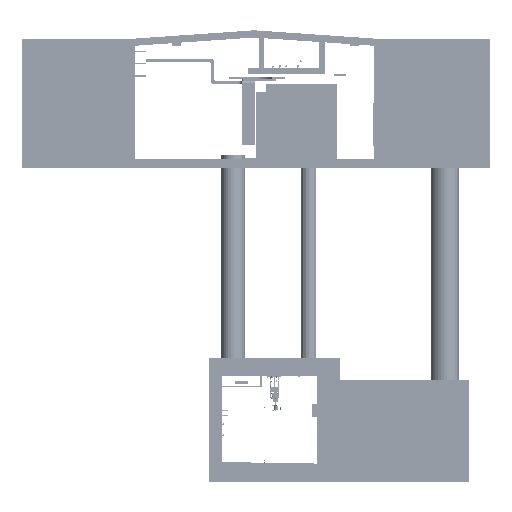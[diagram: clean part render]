
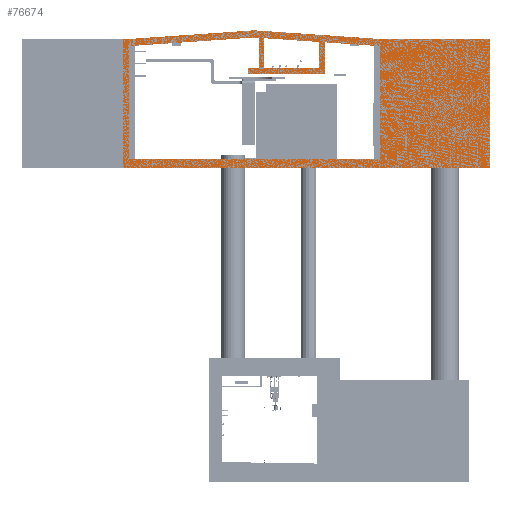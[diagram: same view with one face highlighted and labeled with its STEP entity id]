
A CAD part, left-side view. The second image highlights one B-rep face of the part: STEP entity #76674.
In plain terms, the highlighted planar face has unit normal (-1, 0, 0).
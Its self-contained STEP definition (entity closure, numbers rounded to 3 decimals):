
#14238=ORIENTED_EDGE('',*,*,#30600,.F.);
#14239=ORIENTED_EDGE('',*,*,#32429,.T.);
#14240=ORIENTED_EDGE('',*,*,#30593,.T.);
#14241=ORIENTED_EDGE('',*,*,#32430,.T.);
#14242=ORIENTED_EDGE('',*,*,#32036,.F.);
#14243=ORIENTED_EDGE('',*,*,#32431,.F.);
#14244=ORIENTED_EDGE('',*,*,#30604,.F.);
#14245=ORIENTED_EDGE('',*,*,#32432,.T.);
#14246=ORIENTED_EDGE('',*,*,#30596,.T.);
#14247=ORIENTED_EDGE('',*,*,#30584,.T.);
#14248=ORIENTED_EDGE('',*,*,#30587,.T.);
#14249=ORIENTED_EDGE('',*,*,#32433,.T.);
#14250=ORIENTED_EDGE('',*,*,#32434,.F.);
#14251=ORIENTED_EDGE('',*,*,#32268,.T.);
#14252=ORIENTED_EDGE('',*,*,#31801,.T.);
#14253=ORIENTED_EDGE('',*,*,#32435,.T.);
#14254=ORIENTED_EDGE('',*,*,#30623,.T.);
#14255=ORIENTED_EDGE('',*,*,#32436,.F.);
#14256=ORIENTED_EDGE('',*,*,#32437,.F.);
#14257=ORIENTED_EDGE('',*,*,#30644,.F.);
#14258=ORIENTED_EDGE('',*,*,#32385,.F.);
#14259=ORIENTED_EDGE('',*,*,#32399,.F.);
#30584=EDGE_CURVE('',#40345,#40347,#47569,.T.);
#30587=EDGE_CURVE('',#40347,#40349,#47572,.T.);
#30593=EDGE_CURVE('',#40355,#40354,#47578,.T.);
#30596=EDGE_CURVE('',#40357,#40345,#47581,.T.);
#30600=EDGE_CURVE('',#40360,#40361,#47585,.T.);
#30604=EDGE_CURVE('',#40364,#40365,#47589,.T.);
#30623=EDGE_CURVE('',#40384,#40383,#47608,.T.);
#30644=EDGE_CURVE('',#40404,#40405,#47629,.T.);
#31801=EDGE_CURVE('',#41363,#41362,#48686,.T.);
#32036=EDGE_CURVE('',#41469,#41362,#48826,.T.);
#32268=EDGE_CURVE('',#41539,#41363,#48990,.T.);
#32385=EDGE_CURVE('',#41584,#40404,#49080,.T.);
#32399=EDGE_CURVE('',#41588,#41584,#49094,.T.);
#32429=EDGE_CURVE('',#40360,#40355,#49106,.T.);
#32430=EDGE_CURVE('',#40354,#40361,#49107,.T.);
#32431=EDGE_CURVE('',#40365,#41469,#49108,.T.);
#32432=EDGE_CURVE('',#40364,#40357,#49109,.T.);
#32433=EDGE_CURVE('',#40349,#41613,#49110,.T.);
#32434=EDGE_CURVE('',#41539,#41613,#49111,.T.);
#32435=EDGE_CURVE('',#41588,#40384,#49112,.T.);
#32436=EDGE_CURVE('',#41614,#40383,#49113,.T.);
#32437=EDGE_CURVE('',#40405,#41614,#49114,.T.);
#40345=VERTEX_POINT('',#123198);
#40347=VERTEX_POINT('',#123202);
#40349=VERTEX_POINT('',#123208);
#40354=VERTEX_POINT('',#123221);
#40355=VERTEX_POINT('',#123223);
#40357=VERTEX_POINT('',#123229);
#40360=VERTEX_POINT('',#123236);
#40361=VERTEX_POINT('',#123238);
#40364=VERTEX_POINT('',#123245);
#40365=VERTEX_POINT('',#123247);
#40383=VERTEX_POINT('',#123284);
#40384=VERTEX_POINT('',#123286);
#40404=VERTEX_POINT('',#123327);
#40405=VERTEX_POINT('',#123329);
#41362=VERTEX_POINT('',#125648);
#41363=VERTEX_POINT('',#125650);
#41469=VERTEX_POINT('',#126053);
#41539=VERTEX_POINT('',#126455);
#41584=VERTEX_POINT('',#126675);
#41588=VERTEX_POINT('',#126700);
#41613=VERTEX_POINT('',#126775);
#41614=VERTEX_POINT('',#126779);
#47569=LINE('',#123203,#53812);
#47572=LINE('',#123209,#53815);
#47578=LINE('',#123222,#53821);
#47581=LINE('',#123228,#53824);
#47585=LINE('',#123237,#53828);
#47589=LINE('',#123246,#53832);
#47608=LINE('',#123285,#53851);
#47629=LINE('',#123328,#53872);
#48686=LINE('',#125649,#54929);
#48826=LINE('',#126054,#55069);
#48990=LINE('',#126459,#55233);
#49080=LINE('',#126676,#55323);
#49094=LINE('',#126701,#55337);
#49106=LINE('',#126770,#55349);
#49107=LINE('',#126771,#55350);
#49108=LINE('',#126772,#55351);
#49109=LINE('',#126773,#55352);
#49110=LINE('',#126774,#55353);
#49111=LINE('',#126776,#55354);
#49112=LINE('',#126777,#55355);
#49113=LINE('',#126778,#55356);
#49114=LINE('',#126780,#55357);
#53812=VECTOR('',#99216,1000.);
#53815=VECTOR('',#99221,1000.);
#53821=VECTOR('',#99231,1000.);
#53824=VECTOR('',#99236,1000.);
#53828=VECTOR('',#99242,1000.);
#53832=VECTOR('',#99248,1000.);
#53851=VECTOR('',#99269,1000.);
#53872=VECTOR('',#99292,1000.);
#54929=VECTOR('',#100961,1000.);
#55069=VECTOR('',#101417,1000.);
#55233=VECTOR('',#101921,1000.);
#55323=VECTOR('',#102177,1000.);
#55337=VECTOR('',#102205,1000.);
#55349=VECTOR('',#102283,1000.);
#55350=VECTOR('',#102284,1000.);
#55351=VECTOR('',#102285,1000.);
#55352=VECTOR('',#102286,1000.);
#55353=VECTOR('',#102287,1000.);
#55354=VECTOR('',#102288,1000.);
#55355=VECTOR('',#102289,1000.);
#55356=VECTOR('',#102290,1000.);
#55357=VECTOR('',#102291,1000.);
#60344=EDGE_LOOP('',(#14238,#14239,#14240,#14241));
#60345=EDGE_LOOP('',(#14242,#14243,#14244,#14245,#14246,#14247,#14248,#14249,
#14250,#14251,#14252));
#60346=EDGE_LOOP('',(#14253,#14254,#14255,#14256,#14257,#14258,#14259));
#67203=FACE_BOUND('',#60344,.T.);
#67204=FACE_BOUND('',#60345,.T.);
#67205=FACE_BOUND('',#60346,.T.);
#73784=PLANE('',#90579);
#76674=ADVANCED_FACE('',(#67203,#67204,#67205),#73784,.F.);
#90579=AXIS2_PLACEMENT_3D('',#126769,#102281,#102282);
#99216=DIRECTION('',(0.,0.,-1.));
#99221=DIRECTION('',(0.,-1.,0.));
#99231=DIRECTION('',(0.,1.,0.));
#99236=DIRECTION('',(0.,1.,0.));
#99242=DIRECTION('',(0.,0.998,0.069));
#99248=DIRECTION('',(0.,0.998,0.069));
#99269=DIRECTION('',(0.,1.,0.));
#99292=DIRECTION('',(0.,-1.,0.));
#100961=DIRECTION('',(0.,1.,0.));
#101417=DIRECTION('',(0.,0.,-1.));
#101921=DIRECTION('',(0.,0.,-1.));
#102177=DIRECTION('',(0.,0.,1.));
#102205=DIRECTION('',(0.,1.,0.));
#102281=DIRECTION('',(1.,0.,0.));
#102282=DIRECTION('',(0.,1.,0.));
#102283=DIRECTION('',(0.,0.,-1.));
#102284=DIRECTION('',(0.,0.,1.));
#102285=DIRECTION('',(0.,0.998,-0.069));
#102286=DIRECTION('',(0.,0.,-1.));
#102287=DIRECTION('',(0.,0.,1.));
#102288=DIRECTION('',(0.,0.998,0.069));
#102289=DIRECTION('',(0.,0.,1.));
#102290=DIRECTION('',(0.,-0.998,-0.069));
#102291=DIRECTION('',(0.,-0.998,0.069));
#123198=CARTESIAN_POINT('',(0.,213.65,3200.4));
#123202=CARTESIAN_POINT('',(0.,213.65,2997.2));
#123203=CARTESIAN_POINT('',(0.,213.65,2997.2));
#123208=CARTESIAN_POINT('',(0.,-2478.75,2997.2));
#123209=CARTESIAN_POINT('',(0.,-2478.75,2997.2));
#123221=CARTESIAN_POINT('',(0.,-345.15,3200.4));
#123222=CARTESIAN_POINT('',(0.,-2275.55,3200.4));
#123223=CARTESIAN_POINT('',(0.,-2275.55,3200.4));
#123228=CARTESIAN_POINT('',(0.,-141.95,3200.4));
#123229=CARTESIAN_POINT('',(0.,-141.95,3200.4));
#123236=CARTESIAN_POINT('',(0.,-2275.55,4109.917));
#123237=CARTESIAN_POINT('',(0.,10.45,4267.2));
#123238=CARTESIAN_POINT('',(0.,-345.15,4242.734));
#123245=CARTESIAN_POINT('',(0.,-141.95,4256.714));
#123246=CARTESIAN_POINT('',(0.,10.45,4267.2));
#123247=CARTESIAN_POINT('',(0.,10.45,4267.2));
#123284=CARTESIAN_POINT('',(0.,-4419.6,4216.4));
#123285=CARTESIAN_POINT('',(0.,-4622.8,4216.4));
#123286=CARTESIAN_POINT('',(0.,-8280.4,4216.4));
#123327=CARTESIAN_POINT('',(0.,4622.8,4216.4));
#123328=CARTESIAN_POINT('',(0.,4622.8,4216.4));
#123329=CARTESIAN_POINT('',(0.,4419.6,4216.4));
#125648=CARTESIAN_POINT('',(0.,4419.6,0.));
#125649=CARTESIAN_POINT('',(0.,-4419.6,0.));
#125650=CARTESIAN_POINT('',(0.,-4419.6,0.));
#126053=CARTESIAN_POINT('',(0.,4419.6,3962.4));
#126054=CARTESIAN_POINT('',(0.,4419.6,4216.4));
#126455=CARTESIAN_POINT('',(0.,-4419.6,3962.4));
#126459=CARTESIAN_POINT('',(0.,-4419.6,4216.4));
#126675=CARTESIAN_POINT('',(0.,4622.8,-304.8));
#126676=CARTESIAN_POINT('',(0.,4622.8,-304.8));
#126700=CARTESIAN_POINT('',(0.,-8280.4,-304.8));
#126701=CARTESIAN_POINT('',(0.,-4419.6,-304.8));
#126769=CARTESIAN_POINT('',(0.,-4419.6,-304.8));
#126770=CARTESIAN_POINT('',(0.,-2275.55,4109.917));
#126771=CARTESIAN_POINT('',(0.,-345.15,4242.734));
#126772=CARTESIAN_POINT('',(0.,4419.6,3962.4));
#126773=CARTESIAN_POINT('',(0.,-141.95,4256.714));
#126774=CARTESIAN_POINT('',(0.,-2478.75,4095.936));
#126775=CARTESIAN_POINT('',(0.,-2478.75,4095.936));
#126776=CARTESIAN_POINT('',(0.,10.45,4267.2));
#126777=CARTESIAN_POINT('',(0.,-8280.4,-304.8));
#126778=CARTESIAN_POINT('',(0.,10.45,4521.2));
#126779=CARTESIAN_POINT('',(0.,10.45,4521.2));
#126780=CARTESIAN_POINT('',(0.,4419.6,4216.4));
